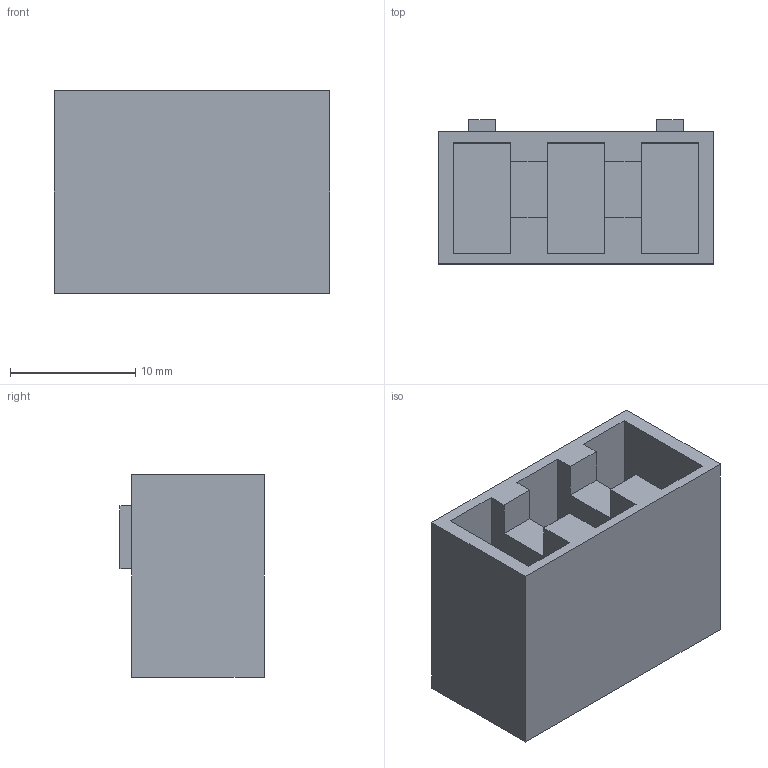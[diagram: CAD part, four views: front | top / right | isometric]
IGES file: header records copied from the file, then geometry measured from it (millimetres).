
Start section:  PTC IGES file: j4-cnp3.igs
Global section: file name: j4-cnp3.igs; native system: Pro/ENGINEER by Parametric Technology Corporation; preprocessor: 2011490; author: JE18792; organization: Unknown; date: 20131128.192100; units: millimetre
Bounding box: 22 x 11.5 x 16.18 mm (x, y, z)
Volume: 2493.2 mm3; surface area: 2325.5 mm2
Topology: 1 solids, 1 shells, 37 faces, 96 edges, 64 vertices
Faces by surface type: bspline 37
